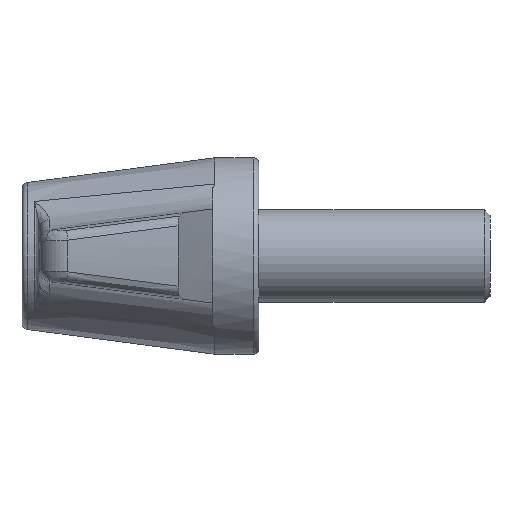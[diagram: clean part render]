
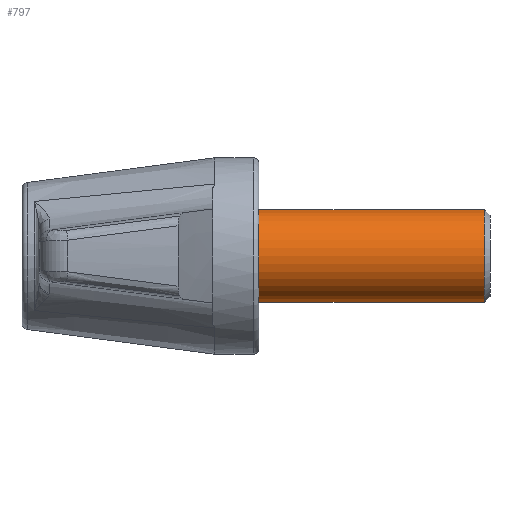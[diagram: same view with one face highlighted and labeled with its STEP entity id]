
A CAD part, left-side view. The second image highlights one B-rep face of the part: STEP entity #797.
In plain terms, the highlighted cylindrical face has radius 4 mm (diameter 8 mm), a partial arc.
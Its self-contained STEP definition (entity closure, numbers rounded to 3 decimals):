
#620 = EDGE_CURVE ( 'NONE', #649, #630, #1598, .T. ) ;
#630 = VERTEX_POINT ( 'NONE', #1559 ) ;
#633 = EDGE_CURVE ( 'NONE', #654, #634, #1521, .T. ) ;
#634 = VERTEX_POINT ( 'NONE', #1517 ) ;
#649 = VERTEX_POINT ( 'NONE', #1756 ) ;
#654 = VERTEX_POINT ( 'NONE', #1814 ) ;
#768 = ORIENTED_EDGE ( 'NONE', *, *, #1072, .T. ) ;
#797 = ADVANCED_FACE ( 'NONE', ( #1902 ), #1901, .T. ) ;
#798 = EDGE_LOOP ( 'NONE', ( #799, #800, #802, #768 ) ) ;
#799 = ORIENTED_EDGE ( 'NONE', *, *, #633, .F. ) ;
#800 = ORIENTED_EDGE ( 'NONE', *, *, #801, .T. ) ;
#801 = EDGE_CURVE ( 'NONE', #654, #649, #1899, .T. ) ;
#802 = ORIENTED_EDGE ( 'NONE', *, *, #620, .T. ) ;
#1072 = EDGE_CURVE ( 'NONE', #630, #634, #2233, .T. ) ;
#1517 = CARTESIAN_POINT ( 'NONE',  ( 0., 0., -4. ) ) ;
#1518 = DIRECTION ( 'NONE',  ( 0., 1., 0. ) ) ;
#1519 = VECTOR ( 'NONE', #1518, 1000. ) ;
#1520 = CARTESIAN_POINT ( 'NONE',  ( 0., -20., -4. ) ) ;
#1521 = LINE ( 'NONE', #1520, #1519 ) ;
#1559 = CARTESIAN_POINT ( 'NONE',  ( 0., 0., 4. ) ) ;
#1576 = DIRECTION ( 'NONE',  ( 0., 1., 0. ) ) ;
#1577 = VECTOR ( 'NONE', #1576, 1000. ) ;
#1578 = CARTESIAN_POINT ( 'NONE',  ( 0., -20., 4. ) ) ;
#1598 = LINE ( 'NONE', #1578, #1577 ) ;
#1756 = CARTESIAN_POINT ( 'NONE',  ( 0., -19.5, 4. ) ) ;
#1814 = CARTESIAN_POINT ( 'NONE',  ( 0., -19.5, -4. ) ) ;
#1863 = AXIS2_PLACEMENT_3D ( 'NONE', #1898, #1897, #1896 ) ;
#1892 = DIRECTION ( 'NONE',  ( 0., 0., -1. ) ) ;
#1893 = DIRECTION ( 'NONE',  ( 0., 1., 0. ) ) ;
#1894 = CARTESIAN_POINT ( 'NONE',  ( 0., -19.5, 0. ) ) ;
#1895 = AXIS2_PLACEMENT_3D ( 'NONE', #1894, #1893, #1892 ) ;
#1896 = DIRECTION ( 'NONE',  ( 0., 0., 1. ) ) ;
#1897 = DIRECTION ( 'NONE',  ( 0., 1., 0. ) ) ;
#1898 = CARTESIAN_POINT ( 'NONE',  ( 0., -20., 0. ) ) ;
#1899 = CIRCLE ( 'NONE', #1895, 4. ) ;
#1901 = CYLINDRICAL_SURFACE ( 'NONE', #1863, 4. ) ;
#1902 = FACE_OUTER_BOUND ( 'NONE', #798, .T. ) ;
#2229 = DIRECTION ( 'NONE',  ( 0., 0., -1. ) ) ;
#2230 = DIRECTION ( 'NONE',  ( 0., -1., 0. ) ) ;
#2231 = CARTESIAN_POINT ( 'NONE',  ( 0., 0., 0. ) ) ;
#2232 = AXIS2_PLACEMENT_3D ( 'NONE', #2231, #2230, #2229 ) ;
#2233 = CIRCLE ( 'NONE', #2232, 4. ) ;
